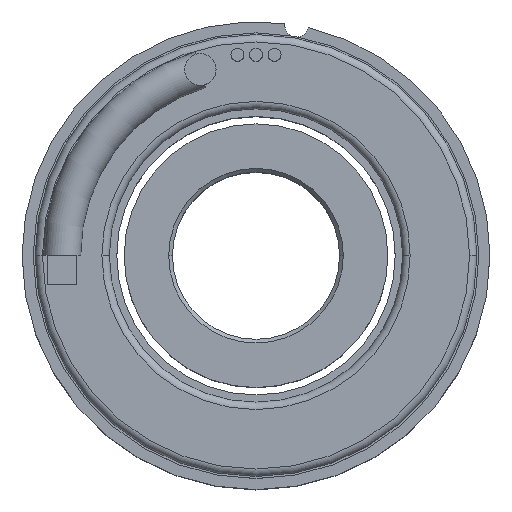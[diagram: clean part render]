
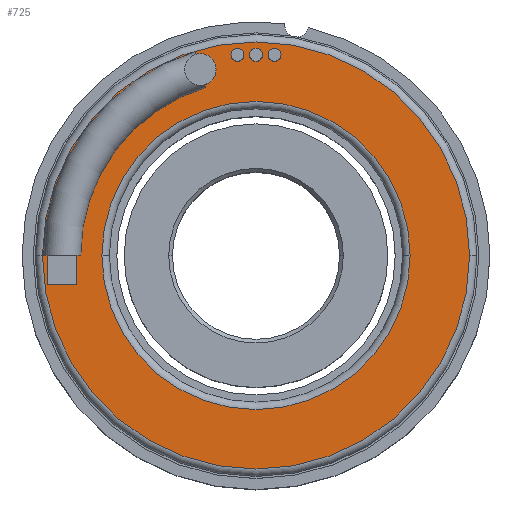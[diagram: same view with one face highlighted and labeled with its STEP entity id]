
A CAD part, top view. The second image highlights one B-rep face of the part: STEP entity #725.
In plain terms, the highlighted planar face has unit normal (0, 0, 1).
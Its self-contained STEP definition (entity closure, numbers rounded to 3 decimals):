
#40 = VERTEX_POINT ( 'NONE', #1426 ) ;
#65 = CIRCLE ( 'NONE', #667, 10.539 ) ;
#368 = DIRECTION ( 'NONE',  ( 1., 0., 0. ) ) ;
#394 = ORIENTED_EDGE ( 'NONE', *, *, #1037, .T. ) ;
#433 = EDGE_CURVE ( 'NONE', #1537, #1549, #2466, .T. ) ;
#447 = DIRECTION ( 'NONE',  ( 1., 0., 0. ) ) ;
#492 = AXIS2_PLACEMENT_3D ( 'NONE', #2315, #914, #1844 ) ;
#512 = CIRCLE ( 'NONE', #492, 14.605 ) ;
#667 = AXIS2_PLACEMENT_3D ( 'NONE', #1524, #1022, #368 ) ;
#696 = EDGE_LOOP ( 'NONE', ( #1377, #1896 ) ) ;
#725 = ADVANCED_FACE ( 'NONE', ( #986, #2774 ), #875, .T. ) ;
#805 = CARTESIAN_POINT ( 'NONE',  ( 10.539, 0., 15.24 ) ) ;
#875 = PLANE ( 'NONE',  #2764 ) ;
#914 = DIRECTION ( 'NONE',  ( 0., 0., 1. ) ) ;
#986 = FACE_BOUND ( 'NONE', #696, .T. ) ;
#1022 = DIRECTION ( 'NONE',  ( 0., 0., -1. ) ) ;
#1037 = EDGE_CURVE ( 'NONE', #40, #1487, #512, .T. ) ;
#1175 = EDGE_LOOP ( 'NONE', ( #1732, #394 ) ) ;
#1366 = CARTESIAN_POINT ( 'NONE',  ( 0., 0., 15.24 ) ) ;
#1377 = ORIENTED_EDGE ( 'NONE', *, *, #1534, .T. ) ;
#1426 = CARTESIAN_POINT ( 'NONE',  ( -14.605, 0., 15.24 ) ) ;
#1487 = VERTEX_POINT ( 'NONE', #2145 ) ;
#1495 = DIRECTION ( 'NONE',  ( 0., 0., -1. ) ) ;
#1524 = CARTESIAN_POINT ( 'NONE',  ( 0., 0., 15.24 ) ) ;
#1534 = EDGE_CURVE ( 'NONE', #1549, #1537, #65, .T. ) ;
#1537 = VERTEX_POINT ( 'NONE', #1728 ) ;
#1549 = VERTEX_POINT ( 'NONE', #805 ) ;
#1578 = CARTESIAN_POINT ( 'NONE',  ( 0., 0., 15.24 ) ) ;
#1645 = DIRECTION ( 'NONE',  ( 1., 0., 0. ) ) ;
#1728 = CARTESIAN_POINT ( 'NONE',  ( -10.539, 0., 15.24 ) ) ;
#1732 = ORIENTED_EDGE ( 'NONE', *, *, #2237, .T. ) ;
#1834 = DIRECTION ( 'NONE',  ( 0., 0., 1. ) ) ;
#1844 = DIRECTION ( 'NONE',  ( 1., 0., 0. ) ) ;
#1896 = ORIENTED_EDGE ( 'NONE', *, *, #433, .T. ) ;
#2069 = AXIS2_PLACEMENT_3D ( 'NONE', #2408, #1495, #2221 ) ;
#2145 = CARTESIAN_POINT ( 'NONE',  ( 14.605, 0., 15.24 ) ) ;
#2221 = DIRECTION ( 'NONE',  ( 1., 0., 0. ) ) ;
#2237 = EDGE_CURVE ( 'NONE', #1487, #40, #2349, .T. ) ;
#2315 = CARTESIAN_POINT ( 'NONE',  ( 0., 0., 15.24 ) ) ;
#2349 = CIRCLE ( 'NONE', #2416, 14.605 ) ;
#2408 = CARTESIAN_POINT ( 'NONE',  ( 0., 0., 15.24 ) ) ;
#2416 = AXIS2_PLACEMENT_3D ( 'NONE', #1578, #2510, #1645 ) ;
#2466 = CIRCLE ( 'NONE', #2069, 10.539 ) ;
#2510 = DIRECTION ( 'NONE',  ( 0., 0., 1. ) ) ;
#2764 = AXIS2_PLACEMENT_3D ( 'NONE', #1366, #1834, #447 ) ;
#2774 = FACE_OUTER_BOUND ( 'NONE', #1175, .T. ) ;
